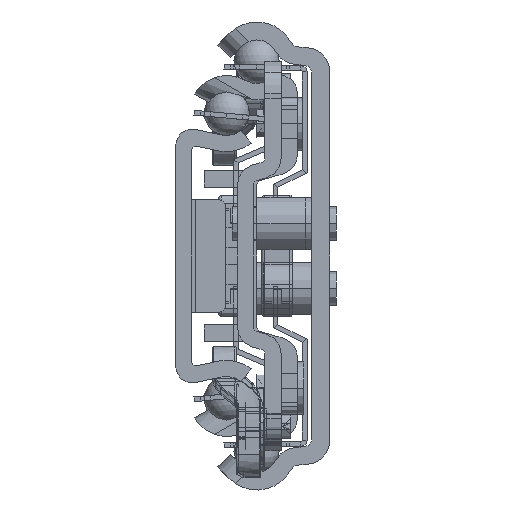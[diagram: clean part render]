
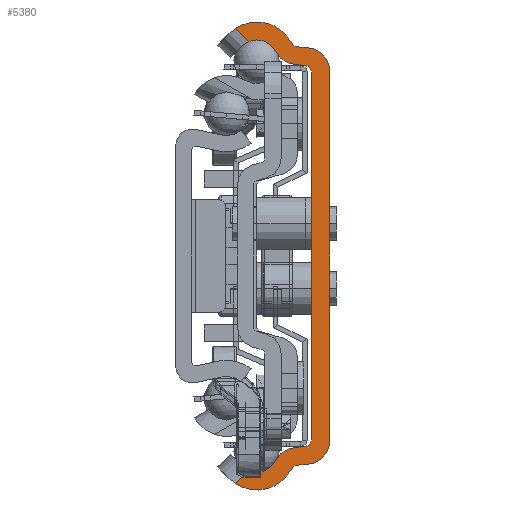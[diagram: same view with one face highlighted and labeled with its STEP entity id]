
A CAD part, left-side view. The second image highlights one B-rep face of the part: STEP entity #5380.
In plain terms, the highlighted planar face has unit normal (-1, 0, 0).
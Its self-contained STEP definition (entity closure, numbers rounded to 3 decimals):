
#1=DIRECTION('',(0.,0.717,-0.697));
#2=VECTOR('',#1,2.305);
#3=CARTESIAN_POINT('',(-700.,9.972,-26.461));
#4=LINE('',#3,#2);
#5=CARTESIAN_POINT('',(-700.,9.,-24.05));
#6=DIRECTION('',(-1.,0.,0.));
#7=DIRECTION('',(0.,0.374,-0.927));
#8=AXIS2_PLACEMENT_3D('',#5,#6,#7);
#10=CARTESIAN_POINT('',(-700.,4.005,-26.582));
#11=DIRECTION('',(-1.,0.,0.));
#12=DIRECTION('',(0.,0.07,0.998));
#13=AXIS2_PLACEMENT_3D('',#10,#11,#12);
#15=DIRECTION('',(0.,-0.998,0.07));
#16=VECTOR('',#15,1.087);
#17=CARTESIAN_POINT('',(-700.,4.214,-23.589));
#18=LINE('',#17,#16);
#19=DIRECTION('',(0.,0.,1.));
#20=VECTOR('',#19,45.032);
#21=CARTESIAN_POINT('',(-700.,2.2,-22.516));
#22=LINE('',#21,#20);
#23=DIRECTION('',(0.,0.998,0.07));
#24=VECTOR('',#23,1.087);
#25=CARTESIAN_POINT('',(-700.,3.13,23.514));
#26=LINE('',#25,#24);
#27=CARTESIAN_POINT('',(-700.,4.005,26.582));
#28=DIRECTION('',(-1.,0.,0.));
#29=DIRECTION('',(0.,0.892,-0.452));
#30=AXIS2_PLACEMENT_3D('',#27,#28,#29);
#32=CARTESIAN_POINT('',(-700.,9.,24.05));
#33=DIRECTION('',(-1.,0.,0.));
#34=DIRECTION('',(0.,-0.892,0.452));
#35=AXIS2_PLACEMENT_3D('',#32,#33,#34);
#37=DIRECTION('',(0.,-0.717,-0.697));
#38=VECTOR('',#37,2.305);
#39=CARTESIAN_POINT('',(-700.,11.624,28.069));
#40=LINE('',#39,#38);
#41=CARTESIAN_POINT('',(-700.,9.,24.05));
#42=DIRECTION('',(1.,0.,0.));
#43=DIRECTION('',(0.,0.547,0.837));
#44=AXIS2_PLACEMENT_3D('',#41,#42,#43);
#46=DIRECTION('',(0.,-0.998,-0.07));
#47=VECTOR('',#46,1.161);
#48=CARTESIAN_POINT('',(-700.,3.949,25.776));
#49=LINE('',#48,#47);
#50=CARTESIAN_POINT('',(-700.,3.,22.702));
#51=DIRECTION('',(-1.,0.,0.));
#52=DIRECTION('',(0.,-1.,0.));
#53=AXIS2_PLACEMENT_3D('',#50,#51,#52);
#55=DIRECTION('',(0.,0.,-1.));
#56=VECTOR('',#55,45.405);
#57=CARTESIAN_POINT('',(-700.,0.,22.702));
#58=LINE('',#57,#56);
#59=CARTESIAN_POINT('',(-700.,3.,-22.702));
#60=DIRECTION('',(-1.,0.,0.));
#61=DIRECTION('',(0.,-0.07,-0.998));
#62=AXIS2_PLACEMENT_3D('',#59,#60,#61);
#64=DIRECTION('',(0.,0.998,-0.07));
#65=VECTOR('',#64,1.161);
#66=CARTESIAN_POINT('',(-700.,2.791,-25.695));
#67=LINE('',#66,#65);
#68=CARTESIAN_POINT('',(-700.,9.,-24.05));
#69=DIRECTION('',(1.,0.,0.));
#70=DIRECTION('',(0.,-0.883,-0.47));
#71=AXIS2_PLACEMENT_3D('',#68,#69,#70);
#79=CARTESIAN_POINT('',(-700.,11.624,-28.069));
#103=CARTESIAN_POINT('',(-700.,9.972,-26.461));
#195=CARTESIAN_POINT('',(-700.,11.624,28.069));
#201=CARTESIAN_POINT('',(-700.,3.879,26.774));
#202=DIRECTION('',(1.,0.,0.));
#203=DIRECTION('',(0.,0.07,-0.998));
#204=AXIS2_PLACEMENT_3D('',#201,#202,#203);
#1227=CARTESIAN_POINT('',(-700.,3.879,-26.774));
#1228=DIRECTION('',(1.,0.,0.));
#1229=DIRECTION('',(0.,0.883,0.47));
#1230=AXIS2_PLACEMENT_3D('',#1227,#1228,#1229);
#2322=CARTESIAN_POINT('',(-700.,3.2,-22.516));
#2323=DIRECTION('',(1.,0.,0.));
#2324=DIRECTION('',(0.,-1.,0.));
#2325=AXIS2_PLACEMENT_3D('',#2322,#2323,#2324);
#2340=CARTESIAN_POINT('',(-700.,3.2,22.516));
#2341=DIRECTION('',(1.,0.,0.));
#2342=DIRECTION('',(0.,-0.07,0.998));
#2343=AXIS2_PLACEMENT_3D('',#2340,#2341,#2342);
#2364=CARTESIAN_POINT('',(-700.,9.972,26.461));
#4197=CARTESIAN_POINT('',(-700.,2.2,-22.516));
#4199=VERTEX_POINT('',#4197);
#4201=CARTESIAN_POINT('',(-700.,3.13,-23.514));
#4203=VERTEX_POINT('',#4201);
#4205=CARTESIAN_POINT('',(-700.,3.13,23.514));
#4207=VERTEX_POINT('',#4205);
#4209=CARTESIAN_POINT('',(-700.,2.2,22.516));
#4211=VERTEX_POINT('',#4209);
#4213=CARTESIAN_POINT('',(-700.,3.949,25.776));
#4215=VERTEX_POINT('',#4213);
#4217=CARTESIAN_POINT('',(-700.,4.762,26.304));
#4219=VERTEX_POINT('',#4217);
#4221=CARTESIAN_POINT('',(-700.,4.762,-26.304));
#4223=VERTEX_POINT('',#4221);
#4225=CARTESIAN_POINT('',(-700.,3.949,-25.776));
#4227=VERTEX_POINT('',#4225);
#4229=CARTESIAN_POINT('',(-700.,4.214,-23.589));
#4230=CARTESIAN_POINT('',(-700.,6.681,-25.226));
#4231=VERTEX_POINT('',#4229);
#4232=VERTEX_POINT('',#4230);
#4237=CARTESIAN_POINT('',(-700.,6.681,25.226));
#4238=CARTESIAN_POINT('',(-700.,4.214,23.589));
#4239=VERTEX_POINT('',#4237);
#4240=VERTEX_POINT('',#4238);
#4245=CARTESIAN_POINT('',(-700.,0.,22.702));
#4246=CARTESIAN_POINT('',(-700.,2.791,25.695));
#4247=VERTEX_POINT('',#4245);
#4248=VERTEX_POINT('',#4246);
#4253=CARTESIAN_POINT('',(-700.,2.791,-25.695));
#4254=CARTESIAN_POINT('',(-700.,0.,-22.702));
#4255=VERTEX_POINT('',#4253);
#4256=VERTEX_POINT('',#4254);
#4603=VERTEX_POINT('',#79);
#4611=VERTEX_POINT('',#103);
#4612=VERTEX_POINT('',#2364);
#4620=VERTEX_POINT('',#195);
#5333=CARTESIAN_POINT('',(-700.,0.,0.));
#5334=DIRECTION('',(1.,0.,0.));
#5335=DIRECTION('',(0.,-1.,0.));
#5336=AXIS2_PLACEMENT_3D('',#5333,#5334,#5335);
#5337=PLANE('',#5336);
#5339=ORIENTED_EDGE('',*,*,#5338,.F.);
#5341=ORIENTED_EDGE('',*,*,#5340,.T.);
#5343=ORIENTED_EDGE('',*,*,#5342,.F.);
#5345=ORIENTED_EDGE('',*,*,#5344,.T.);
#5347=ORIENTED_EDGE('',*,*,#5346,.F.);
#5349=ORIENTED_EDGE('',*,*,#5348,.T.);
#5351=ORIENTED_EDGE('',*,*,#5350,.F.);
#5353=ORIENTED_EDGE('',*,*,#5352,.T.);
#5355=ORIENTED_EDGE('',*,*,#5354,.F.);
#5357=ORIENTED_EDGE('',*,*,#5356,.T.);
#5359=ORIENTED_EDGE('',*,*,#5358,.F.);
#5361=ORIENTED_EDGE('',*,*,#5360,.T.);
#5363=ORIENTED_EDGE('',*,*,#5362,.F.);
#5365=ORIENTED_EDGE('',*,*,#5364,.T.);
#5367=ORIENTED_EDGE('',*,*,#5366,.F.);
#5369=ORIENTED_EDGE('',*,*,#5368,.T.);
#5371=ORIENTED_EDGE('',*,*,#5370,.F.);
#5373=ORIENTED_EDGE('',*,*,#5372,.T.);
#5375=ORIENTED_EDGE('',*,*,#5374,.F.);
#5377=ORIENTED_EDGE('',*,*,#5376,.T.);
#5378=EDGE_LOOP('',(#5339,#5341,#5343,#5345,#5347,#5349,#5351,#5353,#5355,#5357,
#5359,#5361,#5363,#5365,#5367,#5369,#5371,#5373,#5375,#5377));
#5379=FACE_OUTER_BOUND('',#5378,.F.);
#9=CIRCLE('',#8,2.6);
#14=CIRCLE('',#13,3.);
#31=CIRCLE('',#30,3.);
#36=CIRCLE('',#35,2.6);
#45=CIRCLE('',#44,4.8);
#54=CIRCLE('',#53,3.);
#63=CIRCLE('',#62,3.);
#72=CIRCLE('',#71,4.8);
#205=CIRCLE('',#204,1.);
#1231=CIRCLE('',#1230,1.);
#2326=CIRCLE('',#2325,1.);
#2344=CIRCLE('',#2343,1.);
#5338=EDGE_CURVE('',#4611,#4603,#4,.T.);
#5340=EDGE_CURVE('',#4611,#4232,#9,.T.);
#5342=EDGE_CURVE('',#4231,#4232,#14,.T.);
#5344=EDGE_CURVE('',#4231,#4203,#18,.T.);
#5346=EDGE_CURVE('',#4199,#4203,#2326,.T.);
#5348=EDGE_CURVE('',#4199,#4211,#22,.T.);
#5350=EDGE_CURVE('',#4207,#4211,#2344,.T.);
#5352=EDGE_CURVE('',#4207,#4240,#26,.T.);
#5354=EDGE_CURVE('',#4239,#4240,#31,.T.);
#5356=EDGE_CURVE('',#4239,#4612,#36,.T.);
#5358=EDGE_CURVE('',#4620,#4612,#40,.T.);
#5360=EDGE_CURVE('',#4620,#4219,#45,.T.);
#5362=EDGE_CURVE('',#4215,#4219,#205,.T.);
#5364=EDGE_CURVE('',#4215,#4248,#49,.T.);
#5366=EDGE_CURVE('',#4247,#4248,#54,.T.);
#5368=EDGE_CURVE('',#4247,#4256,#58,.T.);
#5370=EDGE_CURVE('',#4255,#4256,#63,.T.);
#5372=EDGE_CURVE('',#4255,#4227,#67,.T.);
#5374=EDGE_CURVE('',#4223,#4227,#1231,.T.);
#5376=EDGE_CURVE('',#4223,#4603,#72,.T.);
#5380=ADVANCED_FACE('',(#5379),#5337,.F.);
